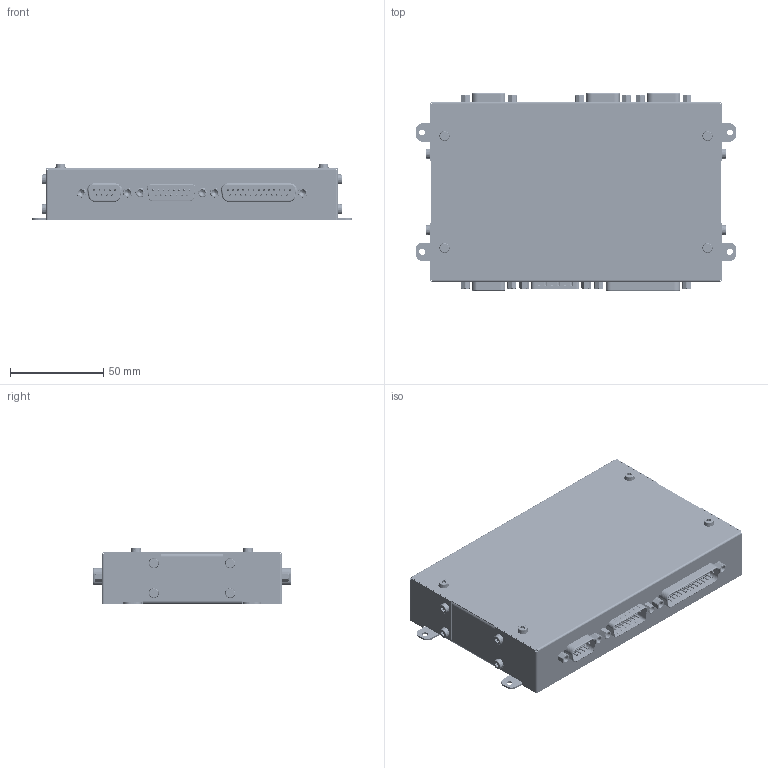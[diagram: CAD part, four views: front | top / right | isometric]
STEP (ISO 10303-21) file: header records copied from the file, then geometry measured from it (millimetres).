
FILE_DESCRIPTION(/* description */ (''),/* implementation_level */ '2;1');
FILE_NAME(/* name */ 'Datahub_Dimensions_STEP.step',/* time_stamp */ '2026-02-05T12:00:17+01:00',/* author */ (''),/* organization */ (''),/* preprocessor_version */ 'ST-DEVELOPER v20.1',/* originating_system */ 'Autodesk Translation Framework v14.24.0.0',/* authorisation */ '');
FILE_SCHEMA (('AUTOMOTIVE_DESIGN { 1 0 10303 214 3 1 1 }'));
Products named in the file (1): Datahub_Dimensions_STEP
Bounding box: 172 x 106.19 x 30.4 mm (x, y, z)
Volume: 417812.8 mm3; surface area: 158962.1 mm2
Topology: 34 solids, 2212 shells, 4265 faces, 15979 edges, 13858 vertices
Faces by surface type: plane 2184, cylinder 1623, cone 200, sphere 137, torus 113, bspline 8
Full cylindrical faces by diameter (mm): 1 x15, 2.209 x18, 2.5 x18, 2.75 x16, 2.85 x2, 2.927 x12, 3.041 x18, 3.1 x2, 3.2 x20, 3.8 x2, 5 x12
Entity records: 189573 total; most frequent: CARTESIAN_POINT 48770, DIRECTION 28798, ORIENTED_EDGE 21507, EDGE_CURVE 15820, VERTEX_POINT 13858, LINE 10252, VECTOR 10252, AXIS2_PLACEMENT_3D 9273
